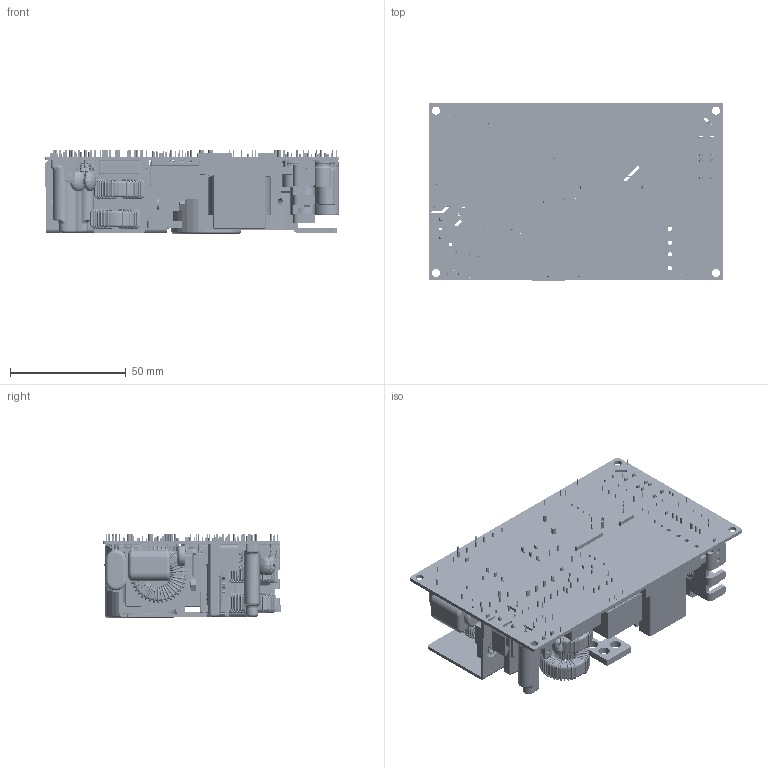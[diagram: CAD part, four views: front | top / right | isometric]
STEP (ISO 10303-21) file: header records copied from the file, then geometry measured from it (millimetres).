
FILE_DESCRIPTION((''),'2;1');
FILE_NAME('MDS-400APB12_AA','2015-09-07T',('Xiaojun.Wu'),(''),'CREO PARAMETRIC BY PTC INC, 2015200','CREO PARAMETRIC BY PTC INC, 2015200','');
FILE_SCHEMA(('CONFIG_CONTROL_DESIGN'));
Products named in the file (93): MDS-400APB12_AA_PCB_AF1; HEAT_SINK-1_AF1; PIN_AF0; PIN_AF1; HEAT_SINK-1_AF0; Q5_Q6_AF0; Q5_Q6_AF1; BD1_AF0; 3105319000_M3X6_GB822; 3105456700_M3X7_GB819; 3110110100_M3_GB6170; HSK1_AF0; HEAT_SINK-2_AF1; PIN_AF2; PIN_AF3; HEAT_SINK-2_AF0; D10_AF0; Q5_Q6_AF2; Q5_Q6_AF3; HSK2_AF0; HEAT_SINK-3_AF1; PIN_AF4; PIN_AF5; HEAT_SINK-3_AF0; Q102_Q101_D101_AF0; Q102_Q101_D101_AF1; HSK3_AF0; HEAT_SINK-4; Q5_Q6_AF4; Q5_Q6_AF5; 3105451900_M3X11_GB822; HSK4_AF0; C1_AF0; CX1_AF0; CN101_AF0; C3_AF0; OUTPUT_TERMINAL_AF0; OUTPUT_TERMINAL_AF1; C5_AF0; C6_AF0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
Assembly tree (113 placements, depth 4):
  MDS-400APB12_AA
    MDS-400APB12_AA_PCB_AF1
    HSK1_AF0
      HEAT_SINK-1_AF0
        HEAT_SINK-1_AF1
        PIN_AF0
        PIN_AF1
      Q5_Q6_AF0
      Q5_Q6_AF1
      BD1_AF0
      3105319000_M3X6_GB822
      3105456700_M3X7_GB819  x2
      3110110100_M3_GB6170  x2
    HSK2_AF0
      HEAT_SINK-2_AF0
        HEAT_SINK-2_AF1
        PIN_AF2
        PIN_AF3
      D10_AF0
      Q5_Q6_AF2
      Q5_Q6_AF3
      3105456700_M3X7_GB819  x3
      3110110100_M3_GB6170  x3
    HSK3_AF0
      HEAT_SINK-3_AF0
        HEAT_SINK-3_AF1
        PIN_AF4
        PIN_AF5
      Q102_Q101_D101_AF0
      Q102_Q101_D101_AF1
      3105456700_M3X7_GB819  x2
      3110110100_M3_GB6170  x2
    HSK4_AF0
      HEAT_SINK-4
      Q5_Q6_AF4
      Q5_Q6_AF5
      3105451900_M3X11_GB822
      3110110100_M3_GB6170
    C1_AF0
    CX1_AF0
    CN101_AF0
    C3_AF0
    OUTPUT_TERMINAL_AF0
    OUTPUT_TERMINAL_AF1
    C5_AF0
    C6_AF0
    CY_AF0
    CY_AF1
    CY_AF2
    CY_AF3
    C101_AF0
    C101_AF1
    C115_C116_AF0
    C115_C116_AF1
    C25_AF0
    C26_C27_AF0
    C26_C27_AF1
    PWB_TDC-348_AF0
    Q102_Q101_D101
    F1_F2_AF0
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Bounding box: 127.3 x 76.7 x 36.2 mm (x, y, z)
Volume: 140552.7 mm3; surface area: 129780.6 mm2
Topology: 226 solids, 248 shells, 7954 faces, 19129 edges, 11477 vertices
Faces by surface type: plane 3097, cylinder 2802, torus 1334, bspline 374, cone 217, sphere 114, revolution 16
Entity records: 268982 total; most frequent: CARTESIAN_POINT 63118, DIRECTION 34567, ORIENTED_EDGE 32258, EDGE_CURVE 16147, AXIS2_PLACEMENT_3D 12660, PRESENTATION_STYLE_ASSIGNMENT 11349, STYLED_ITEM 10401, VERTEX_POINT 9861
